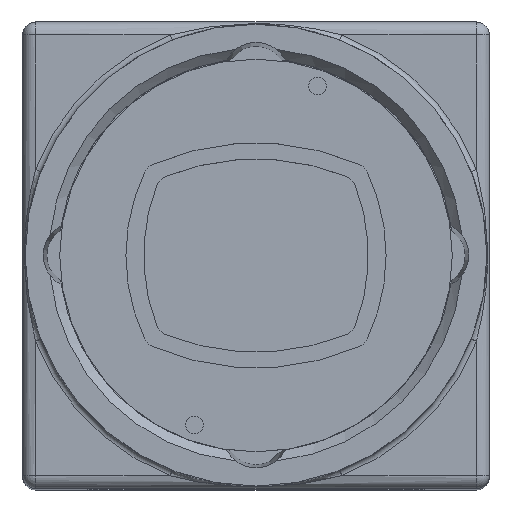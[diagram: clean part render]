
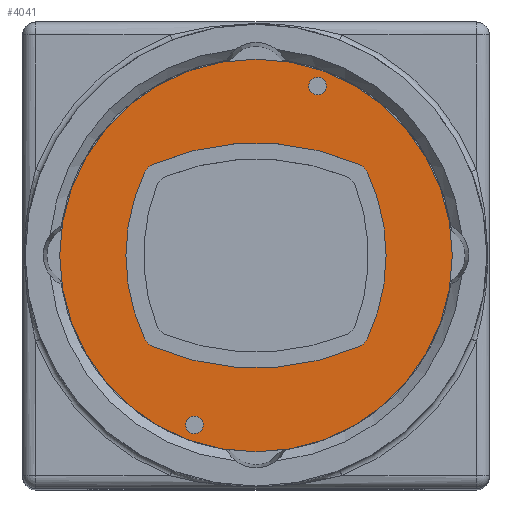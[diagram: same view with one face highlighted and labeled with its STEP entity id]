
A CAD part, top view. The second image highlights one B-rep face of the part: STEP entity #4041.
In plain terms, the highlighted planar face has unit normal (0, 0, 1).
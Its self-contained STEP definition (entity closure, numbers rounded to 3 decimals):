
#4041 = ADVANCED_FACE( '', ( #9932, #9933, #9934, #9935 ), #9936, .F. );
#9932 = FACE_OUTER_BOUND( '', #18779, .T. );
#9933 = FACE_BOUND( '', #18780, .T. );
#9934 = FACE_BOUND( '', #18781, .T. );
#9935 = FACE_BOUND( '', #18782, .T. );
#9936 = PLANE( '', #18783 );
#18779 = EDGE_LOOP( '', ( #32650 ) );
#18780 = EDGE_LOOP( '', ( #32651, #32652, #32653, #32654, #32655, #32656, #32657, #32658 ) );
#18781 = EDGE_LOOP( '', ( #32659 ) );
#18782 = EDGE_LOOP( '', ( #32660 ) );
#18783 = AXIS2_PLACEMENT_3D( '', #32661, #32662, #32663 );
#32650 = ORIENTED_EDGE( '', *, *, #51272, .F. );
#32651 = ORIENTED_EDGE( '', *, *, #49481, .T. );
#32652 = ORIENTED_EDGE( '', *, *, #51311, .T. );
#32653 = ORIENTED_EDGE( '', *, *, #51312, .T. );
#32654 = ORIENTED_EDGE( '', *, *, #51313, .T. );
#32655 = ORIENTED_EDGE( '', *, *, #51314, .T. );
#32656 = ORIENTED_EDGE( '', *, *, #51315, .T. );
#32657 = ORIENTED_EDGE( '', *, *, #49112, .T. );
#32658 = ORIENTED_EDGE( '', *, *, #51316, .T. );
#32659 = ORIENTED_EDGE( '', *, *, #51317, .F. );
#32660 = ORIENTED_EDGE( '', *, *, #51318, .T. );
#32661 = CARTESIAN_POINT( '', ( 1.907, 5.239, 5.8 ) );
#32662 = DIRECTION( '', ( 0., 0., -1. ) );
#32663 = DIRECTION( '', ( -1., 0., 0. ) );
#49112 = EDGE_CURVE( '', #58627, #58628, #58629, .T. );
#49481 = EDGE_CURVE( '', #59256, #59254, #59257, .T. );
#51272 = EDGE_CURVE( '', #62138, #62138, #62139, .T. );
#51311 = EDGE_CURVE( '', #59254, #62198, #62199, .T. );
#51312 = EDGE_CURVE( '', #62198, #62200, #62201, .T. );
#51313 = EDGE_CURVE( '', #62200, #62202, #62203, .T. );
#51314 = EDGE_CURVE( '', #62202, #62204, #62205, .T. );
#51315 = EDGE_CURVE( '', #62204, #58627, #62206, .T. );
#51316 = EDGE_CURVE( '', #58628, #59256, #62207, .T. );
#51317 = EDGE_CURVE( '', #62208, #62208, #62209, .T. );
#51318 = EDGE_CURVE( '', #62210, #62210, #62211, .T. );
#58627 = VERTEX_POINT( '', #72328 );
#58628 = VERTEX_POINT( '', #72329 );
#58629 = CIRCLE( '', #72330, 16. );
#59254 = VERTEX_POINT( '', #73213 );
#59256 = VERTEX_POINT( '', #73216 );
#59257 = CIRCLE( '', #73217, 12. );
#62138 = VERTEX_POINT( '', #77641 );
#62139 = CIRCLE( '', #77642, 12.2 );
#62198 = VERTEX_POINT( '', #77729 );
#62199 = CIRCLE( '', #77730, 1. );
#62200 = VERTEX_POINT( '', #77731 );
#62201 = CIRCLE( '', #77732, 16. );
#62202 = VERTEX_POINT( '', #77733 );
#62203 = CIRCLE( '', #77734, 1. );
#62204 = VERTEX_POINT( '', #77735 );
#62205 = CIRCLE( '', #77736, 12. );
#62206 = CIRCLE( '', #77737, 1. );
#62207 = CIRCLE( '', #77738, 1. );
#62208 = VERTEX_POINT( '', #77739 );
#62209 = CIRCLE( '', #77740, 0.55 );
#62210 = VERTEX_POINT( '', #77741 );
#62211 = CIRCLE( '', #77742, 0.55 );
#72328 = CARTESIAN_POINT( '', ( -6.414, 5.652, 5.8 ) );
#72329 = CARTESIAN_POINT( '', ( 6.414, 5.652, 5.8 ) );
#72330 = AXIS2_PLACEMENT_3D( '', #88449, #88450, #88451 );
#73213 = CARTESIAN_POINT( '', ( 6.916, -5.166, 5.8 ) );
#73216 = CARTESIAN_POINT( '', ( 6.916, 5.166, 5.8 ) );
#73217 = AXIS2_PLACEMENT_3D( '', #88931, #88932, #88933 );
#77641 = CARTESIAN_POINT( '', ( -12.2, 0., 5.8 ) );
#77642 = AXIS2_PLACEMENT_3D( '', #91114, #91115, #91116 );
#77729 = CARTESIAN_POINT( '', ( 6.414, -5.652, 5.8 ) );
#77730 = AXIS2_PLACEMENT_3D( '', #91155, #91156, #91157 );
#77731 = CARTESIAN_POINT( '', ( -6.414, -5.652, 5.8 ) );
#77732 = AXIS2_PLACEMENT_3D( '', #91158, #91159, #91160 );
#77733 = CARTESIAN_POINT( '', ( -6.916, -5.166, 5.8 ) );
#77734 = AXIS2_PLACEMENT_3D( '', #91161, #91162, #91163 );
#77735 = CARTESIAN_POINT( '', ( -6.916, 5.166, 5.8 ) );
#77736 = AXIS2_PLACEMENT_3D( '', #91164, #91165, #91166 );
#77737 = AXIS2_PLACEMENT_3D( '', #91167, #91168, #91169 );
#77738 = AXIS2_PLACEMENT_3D( '', #91170, #91171, #91172 );
#77739 = CARTESIAN_POINT( '', ( -3.281, -10.525, 5.8 ) );
#77740 = AXIS2_PLACEMENT_3D( '', #91173, #91174, #91175 );
#77741 = CARTESIAN_POINT( '', ( 4.381, 10.525, 5.8 ) );
#77742 = AXIS2_PLACEMENT_3D( '', #91176, #91177, #91178 );
#88449 = CARTESIAN_POINT( '', ( 0., -9.006, 5.8 ) );
#88450 = DIRECTION( '', ( 0., 0., -1. ) );
#88451 = DIRECTION( '', ( 1., 0., 0. ) );
#88931 = CARTESIAN_POINT( '', ( -3.915, 0., 5.8 ) );
#88932 = DIRECTION( '', ( 0., 0., -1. ) );
#88933 = DIRECTION( '', ( -1., 0., 0. ) );
#91114 = CARTESIAN_POINT( '', ( 0., 0., 5.8 ) );
#91115 = DIRECTION( '', ( 0., 0., -1. ) );
#91116 = DIRECTION( '', ( -1., 0., 0. ) );
#91155 = CARTESIAN_POINT( '', ( 6.013, -4.736, 5.8 ) );
#91156 = DIRECTION( '', ( 0., 0., -1. ) );
#91157 = DIRECTION( '', ( -1., 0., 0. ) );
#91158 = CARTESIAN_POINT( '', ( 0., 9.006, 5.8 ) );
#91159 = DIRECTION( '', ( 0., 0., -1. ) );
#91160 = DIRECTION( '', ( 1., 0., 0. ) );
#91161 = CARTESIAN_POINT( '', ( -6.013, -4.736, 5.8 ) );
#91162 = DIRECTION( '', ( 0., 0., -1. ) );
#91163 = DIRECTION( '', ( -1., 0., 0. ) );
#91164 = CARTESIAN_POINT( '', ( 3.915, 0., 5.8 ) );
#91165 = DIRECTION( '', ( 0., 0., -1. ) );
#91166 = DIRECTION( '', ( 1., 0., 0. ) );
#91167 = CARTESIAN_POINT( '', ( -6.013, 4.736, 5.8 ) );
#91168 = DIRECTION( '', ( 0., 0., -1. ) );
#91169 = DIRECTION( '', ( -1., 0., 0. ) );
#91170 = CARTESIAN_POINT( '', ( 6.013, 4.736, 5.8 ) );
#91171 = DIRECTION( '', ( 0., 0., -1. ) );
#91172 = DIRECTION( '', ( -1., 0., 0. ) );
#91173 = CARTESIAN_POINT( '', ( -3.831, -10.525, 5.8 ) );
#91174 = DIRECTION( '', ( 0., 0., 1. ) );
#91175 = DIRECTION( '', ( 1., 0., 0. ) );
#91176 = CARTESIAN_POINT( '', ( 3.831, 10.525, 5.8 ) );
#91177 = DIRECTION( '', ( 0., 0., -1. ) );
#91178 = DIRECTION( '', ( 1., 0., 0. ) );
